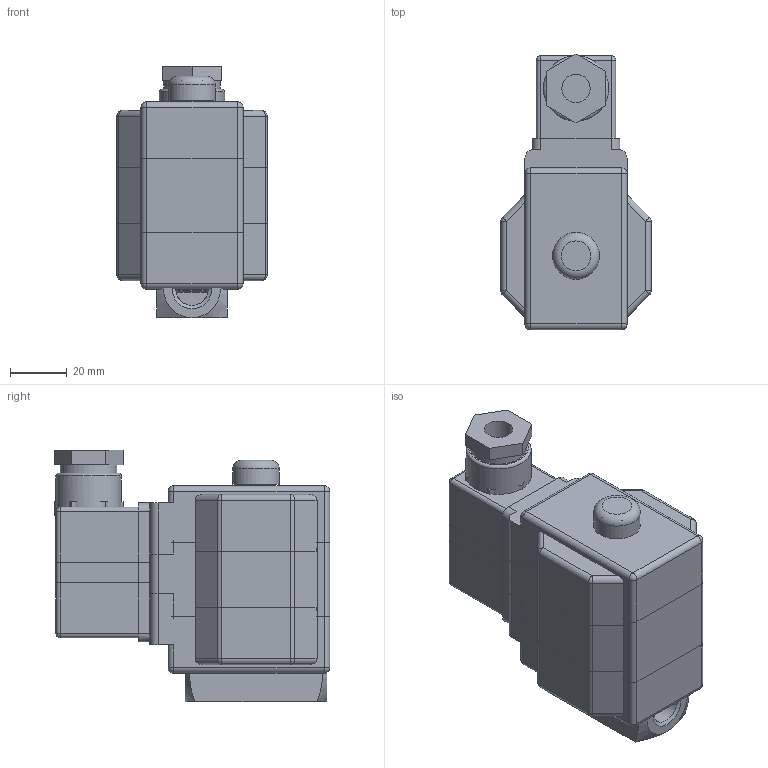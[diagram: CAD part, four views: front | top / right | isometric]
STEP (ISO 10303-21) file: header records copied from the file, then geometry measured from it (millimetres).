
FILE_DESCRIPTION( ( 'Unknown' ), '1' );
FILE_NAME( 'D:/Wyroby/Widoki gabarytowe/Zawory ZECA/ZECA_6/ZECA_6.stp', 'Unknown', ( 'Unknown' ), ( 'Unknown' ), 'XStep 1.0', 'Unknown', ' ' );
FILE_SCHEMA( ( 'CONFIG_CONTROL_DESIGN' ) );
Length unit declared in the file: millimetre
Products named in the file (17): Wb_141_02_00; Assem1; Wb_141_02_00_002; Wa_141_01_00_004; Wb_141_01_00_003; Wb_141_01_01; Wb_141_01_00_004; Oring16x2彡i從i黎y; Wb_141_01_00_005彡i從i黎a20; A_016_podk³adka_sprê¿ynuj¹ca_8; N_006M8; Os³ona_na_nakrêtkê; Cewka_UMO
Bounding box: 53 x 97.12 x 88.5 mm (x, y, z)
Volume: 410959.7 mm3; surface area: 106001.4 mm2
Topology: 44 solids, 44 shells, 725 faces, 1558 edges, 922 vertices
Faces by surface type: plane 301, cylinder 229, cone 135, sphere 40, torus 17, bspline 3
Full cylindrical faces by diameter (mm): 3.242 x6, 5 x6, 5.5 x6, 6 x3, 6.647 x3, 7 x8, 8 x8, 9.5 x3, 10 x2, 11 x3, 11.445 x6, 12 x6, 13 x12, 14 x10, 15 x6, 16.5 x3, 17 x9, 18.917 x3, 20 x5, 20.5 x6, 23 x2, 25 x2
Entity records: 12653 total; most frequent: CARTESIAN_POINT 6193, DIRECTION 1268, ORIENTED_EDGE 998, AXIS2_PLACEMENT_3D 532, EDGE_CURVE 499, EDGE_LOOP 386, VERTEX_POINT 339, FACE_OUTER_BOUND 330
